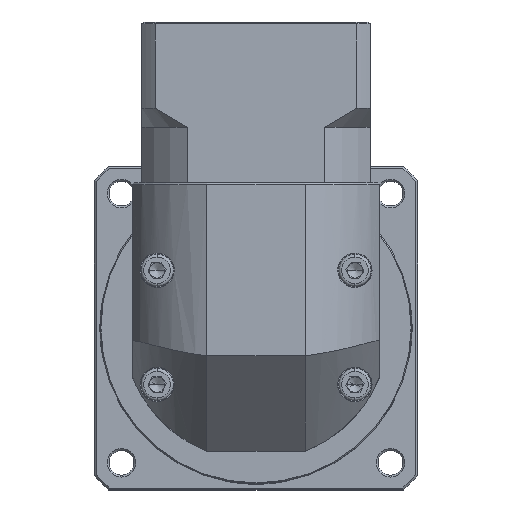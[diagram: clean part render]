
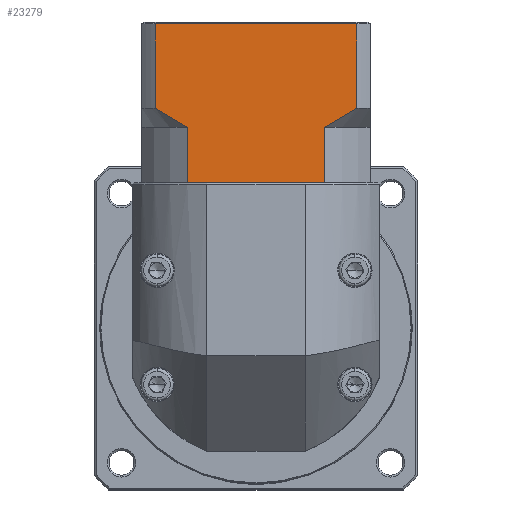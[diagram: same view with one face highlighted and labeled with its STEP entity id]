
A CAD part, top view. The second image highlights one B-rep face of the part: STEP entity #23279.
In plain terms, the highlighted planar face has unit normal (0, 0, 1).
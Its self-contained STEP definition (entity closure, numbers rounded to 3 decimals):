
#1586 = EDGE_CURVE ( 'NONE', #88217, #104543, #103548, .T. ) ;
#2215 = EDGE_CURVE ( 'NONE', #67302, #87957, #122910, .T. ) ;
#2357 = VERTEX_POINT ( 'NONE', #67564 ) ;
#3005 = CARTESIAN_POINT ( 'NONE',  ( -34.578, 108.763, 36.617 ) ) ;
#3764 = VECTOR ( 'NONE', #114435, 1000. ) ;
#5026 = CARTESIAN_POINT ( 'NONE',  ( -84.755, 106.991, 36.617 ) ) ;
#5896 = ORIENTED_EDGE ( 'NONE', *, *, #107601, .F. ) ;
#6783 = CARTESIAN_POINT ( 'NONE',  ( -80.515, 104.511, 36.617 ) ) ;
#8069 = LINE ( 'NONE', #59441, #30580 ) ;
#9266 = CARTESIAN_POINT ( 'NONE',  ( -43.008, 103.763, 36.617 ) ) ;
#9835 = ORIENTED_EDGE ( 'NONE', *, *, #55534, .F. ) ;
#10687 = CARTESIAN_POINT ( 'NONE',  ( -78.072, 89.263, 36.617 ) ) ;
#14186 = EDGE_CURVE ( 'NONE', #65461, #84197, #88816, .T. ) ;
#15785 = CARTESIAN_POINT ( 'NONE',  ( -91.036, 89.263, 36.617 ) ) ;
#16870 = CARTESIAN_POINT ( 'NONE',  ( -87.493, 108.763, 36.617 ) ) ;
#19431 = CARTESIAN_POINT ( 'NONE',  ( -79.063, 103.763, 36.617 ) ) ;
#23279 = ADVANCED_FACE ( 'NONE', ( #45881 ), #118929, .F. ) ;
#23649 = CARTESIAN_POINT ( 'NONE',  ( -37.321, 106.988, 36.617 ) ) ;
#24241 = EDGE_CURVE ( 'NONE', #65461, #104543, #127833, .T. ) ;
#26036 = CARTESIAN_POINT ( 'NONE',  ( -91.036, 89.263, 36.617 ) ) ;
#26222 = DIRECTION ( 'NONE',  ( 0., 0., -1. ) ) ;
#26442 = VECTOR ( 'NONE', #58227, 1000. ) ;
#26636 = CARTESIAN_POINT ( 'NONE',  ( -91.036, 131.463, 36.617 ) ) ;
#29796 = EDGE_LOOP ( 'NONE', ( #126411, #105927, #5896, #79102, #9835, #121160, #55304, #131116, #85536, #113287 ) ) ;
#30580 = VECTOR ( 'NONE', #79243, 1000. ) ;
#34807 = VERTEX_POINT ( 'NONE', #55604 ) ;
#35371 = CARTESIAN_POINT ( 'NONE',  ( -34.578, 108.763, 36.617 ) ) ;
#35997 = EDGE_CURVE ( 'NONE', #62523, #88217, #74193, .T. ) ;
#36278 = VECTOR ( 'NONE', #91880, 1000. ) ;
#36771 = DIRECTION ( 'NONE',  ( 1., 0., 0. ) ) ;
#38762 = LINE ( 'NONE', #87025, #45197 ) ;
#40379 = VECTOR ( 'NONE', #36771, 1000. ) ;
#44138 = CARTESIAN_POINT ( 'NONE',  ( -34.578, 130.963, 36.617 ) ) ;
#44889 = VECTOR ( 'NONE', #116723, 1000. ) ;
#45197 = VECTOR ( 'NONE', #67584, 1000. ) ;
#45881 = FACE_OUTER_BOUND ( 'NONE', #29796, .T. ) ;
#47189 = CARTESIAN_POINT ( 'NONE',  ( -81.947, 105.315, 36.617 ) ) ;
#48950 = CARTESIAN_POINT ( 'NONE',  ( -79.063, 103.763, 36.617 ) ) ;
#54153 = B_SPLINE_CURVE_WITH_KNOTS ( 'NONE', 3,
 ( #117971, #118833, #5026, #47189, #6783, #48950 ),
 .UNSPECIFIED., .F., .F.,
 ( 4, 2, 4 ),
 ( 0.052, 0.057, 0.062 ),
 .UNSPECIFIED. ) ;
#55198 = VECTOR ( 'NONE', #119280, 1000. ) ;
#55304 = ORIENTED_EDGE ( 'NONE', *, *, #35997, .T. ) ;
#55534 = EDGE_CURVE ( 'NONE', #2357, #34807, #124912, .T. ) ;
#55577 = CARTESIAN_POINT ( 'NONE',  ( -43.008, 103.763, 36.617 ) ) ;
#55604 = CARTESIAN_POINT ( 'NONE',  ( -79.063, 103.763, 36.617 ) ) ;
#57020 = EDGE_CURVE ( 'NONE', #67302, #84197, #38762, .T. ) ;
#58227 = DIRECTION ( 'NONE',  ( 0., -1., 0. ) ) ;
#59441 = CARTESIAN_POINT ( 'NONE',  ( -87.493, 103.763, 36.617 ) ) ;
#62523 = VERTEX_POINT ( 'NONE', #10687 ) ;
#64968 = CARTESIAN_POINT ( 'NONE',  ( -43.008, 103.763, 36.617 ) ) ;
#65230 = AXIS2_PLACEMENT_3D ( 'NONE', #26636, #26222, #128377 ) ;
#65461 = VERTEX_POINT ( 'NONE', #9266 ) ;
#67302 = VERTEX_POINT ( 'NONE', #44138 ) ;
#67564 = CARTESIAN_POINT ( 'NONE',  ( -79.063, 89.263, 36.617 ) ) ;
#67584 = DIRECTION ( 'NONE',  ( 0., -1., 0. ) ) ;
#73508 = CARTESIAN_POINT ( 'NONE',  ( -41.551, 104.514, 36.617 ) ) ;
#74193 = LINE ( 'NONE', #26036, #40379 ) ;
#74766 = CARTESIAN_POINT ( 'NONE',  ( -91.036, 89.263, 36.617 ) ) ;
#79102 = ORIENTED_EDGE ( 'NONE', *, *, #92805, .T. ) ;
#79243 = DIRECTION ( 'NONE',  ( 0., 1., 0. ) ) ;
#84197 = VERTEX_POINT ( 'NONE', #35371 ) ;
#85536 = ORIENTED_EDGE ( 'NONE', *, *, #24241, .F. ) ;
#87025 = CARTESIAN_POINT ( 'NONE',  ( -34.578, 103.763, 36.617 ) ) ;
#87957 = VERTEX_POINT ( 'NONE', #132623 ) ;
#88217 = VERTEX_POINT ( 'NONE', #125395 ) ;
#88816 = B_SPLINE_CURVE_WITH_KNOTS ( 'NONE', 3,
 ( #64968, #73508, #94729, #23649, #95157, #3005 ),
 .UNSPECIFIED., .F., .F.,
 ( 4, 2, 4 ),
 ( 0.1, 0.104, 0.109 ),
 .UNSPECIFIED. ) ;
#89783 = VERTEX_POINT ( 'NONE', #16870 ) ;
#91880 = DIRECTION ( 'NONE',  ( 0., 1., 0. ) ) ;
#92805 = EDGE_CURVE ( 'NONE', #89783, #34807, #54153, .T. ) ;
#93755 = CARTESIAN_POINT ( 'NONE',  ( -91.036, 130.963, 36.617 ) ) ;
#94729 = CARTESIAN_POINT ( 'NONE',  ( -40.126, 105.314, 36.617 ) ) ;
#95157 = CARTESIAN_POINT ( 'NONE',  ( -35.941, 107.862, 36.617 ) ) ;
#103548 = LINE ( 'NONE', #15785, #55198 ) ;
#104543 = VERTEX_POINT ( 'NONE', #106600 ) ;
#105927 = ORIENTED_EDGE ( 'NONE', *, *, #2215, .T. ) ;
#106600 = CARTESIAN_POINT ( 'NONE',  ( -43.008, 89.263, 36.617 ) ) ;
#107601 = EDGE_CURVE ( 'NONE', #89783, #87957, #8069, .T. ) ;
#111890 = EDGE_CURVE ( 'NONE', #2357, #62523, #115827, .T. ) ;
#113287 = ORIENTED_EDGE ( 'NONE', *, *, #14186, .T. ) ;
#114435 = DIRECTION ( 'NONE',  ( -1., 0., 0. ) ) ;
#115827 = LINE ( 'NONE', #74766, #44889 ) ;
#116723 = DIRECTION ( 'NONE',  ( 1., 0., 0. ) ) ;
#117971 = CARTESIAN_POINT ( 'NONE',  ( -87.493, 108.763, 36.617 ) ) ;
#118833 = CARTESIAN_POINT ( 'NONE',  ( -86.133, 107.864, 36.617 ) ) ;
#118929 = PLANE ( 'NONE',  #65230 ) ;
#119280 = DIRECTION ( 'NONE',  ( 1., 0., 0. ) ) ;
#121160 = ORIENTED_EDGE ( 'NONE', *, *, #111890, .T. ) ;
#122910 = LINE ( 'NONE', #93755, #3764 ) ;
#124912 = LINE ( 'NONE', #19431, #36278 ) ;
#125395 = CARTESIAN_POINT ( 'NONE',  ( -43.999, 89.263, 36.617 ) ) ;
#126411 = ORIENTED_EDGE ( 'NONE', *, *, #57020, .F. ) ;
#127833 = LINE ( 'NONE', #55577, #26442 ) ;
#128377 = DIRECTION ( 'NONE',  ( 0., 1., 0. ) ) ;
#131116 = ORIENTED_EDGE ( 'NONE', *, *, #1586, .T. ) ;
#132623 = CARTESIAN_POINT ( 'NONE',  ( -87.493, 130.963, 36.617 ) ) ;
